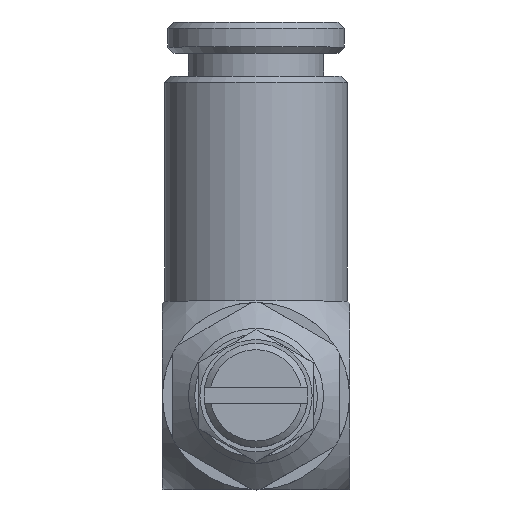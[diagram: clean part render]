
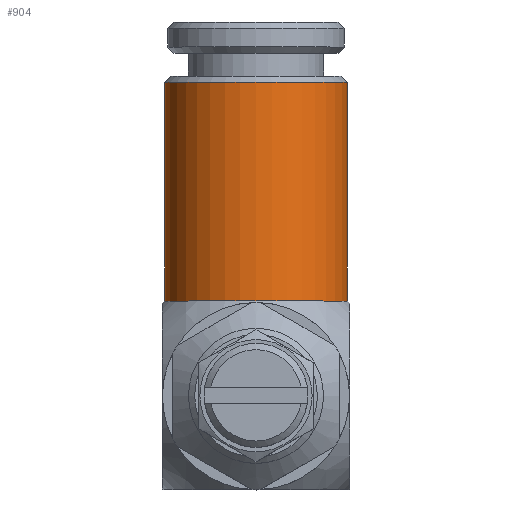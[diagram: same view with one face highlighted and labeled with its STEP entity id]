
A CAD part, top view. The second image highlights one B-rep face of the part: STEP entity #904.
In plain terms, the highlighted cylindrical face has radius 4.4 mm (diameter 8.8 mm), a full revolution.
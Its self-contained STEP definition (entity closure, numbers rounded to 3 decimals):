
#146=CYLINDRICAL_SURFACE('',#1015,4.4);
#181=FACE_BOUND('',#330,.T.);
#239=FACE_OUTER_BOUND('',#329,.T.);
#329=EDGE_LOOP('',(#771));
#330=EDGE_LOOP('',(#772));
#382=CIRCLE('',#1014,4.4);
#383=CIRCLE('',#1016,4.4);
#462=VERTEX_POINT('',#1554);
#463=VERTEX_POINT('',#1557);
#566=EDGE_CURVE('',#462,#462,#382,.T.);
#567=EDGE_CURVE('',#463,#463,#383,.T.);
#771=ORIENTED_EDGE('',*,*,#566,.T.);
#772=ORIENTED_EDGE('',*,*,#567,.F.);
#904=ADVANCED_FACE('',(#239,#181),#146,.T.);
#1014=AXIS2_PLACEMENT_3D('',#1555,#1262,#1263);
#1015=AXIS2_PLACEMENT_3D('',#1556,#1264,#1265);
#1016=AXIS2_PLACEMENT_3D('',#1558,#1266,#1267);
#1262=DIRECTION('center_axis',(0.,1.,0.));
#1263=DIRECTION('ref_axis',(1.,0.,0.));
#1264=DIRECTION('center_axis',(0.,1.,0.));
#1265=DIRECTION('ref_axis',(0.,0.,1.));
#1266=DIRECTION('center_axis',(0.,1.,0.));
#1267=DIRECTION('ref_axis',(1.,0.,0.));
#1554=CARTESIAN_POINT('',(0.,4.578,4.4));
#1555=CARTESIAN_POINT('Origin',(0.,4.578,0.));
#1556=CARTESIAN_POINT('Origin',(0.,9.839,0.));
#1557=CARTESIAN_POINT('',(0.,15.1,4.4));
#1558=CARTESIAN_POINT('Origin',(0.,15.1,0.));
